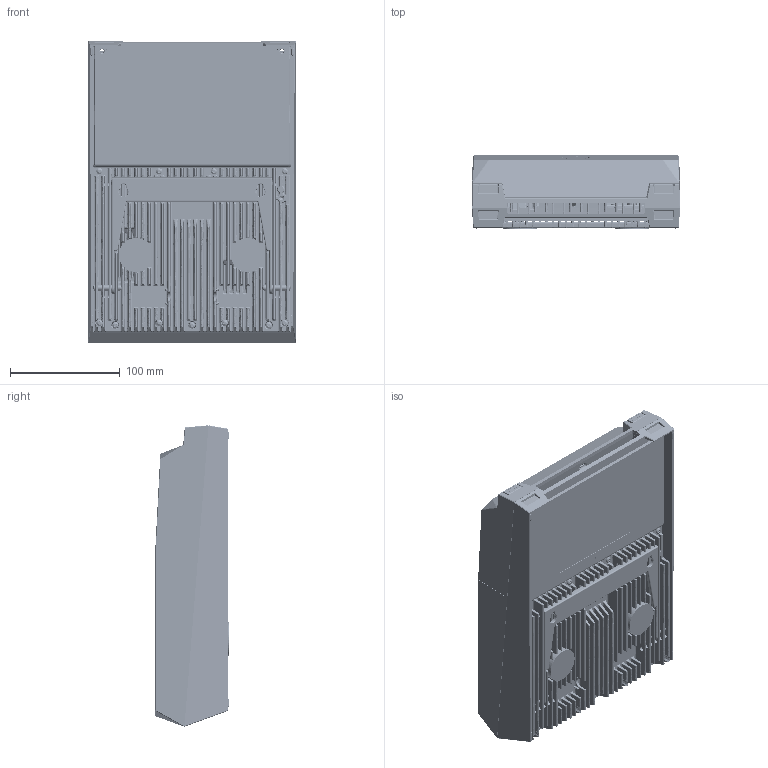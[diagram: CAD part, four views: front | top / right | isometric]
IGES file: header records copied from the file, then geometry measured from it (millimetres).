
Start section: SolidWorks IGES file using NURBS representation for surfaces
Global section: file name: G:\Transfer\SKU\Hülle Gate 61 K8535.IGS; native system: SolidWorks 2023; preprocessor: SolidWorks 2023; author: stefan.kuehnis; date: 240709.105827; units: millimetre
Bounding box: 190 x 66.8 x 275 mm (x, y, z)
Surface area: 652624.1 mm2 (no closed solid volume)
Topology: 0 solids, 0 shells, 7573 faces, 95386 edges, 114467 vertices
Faces by surface type: bspline 7573
